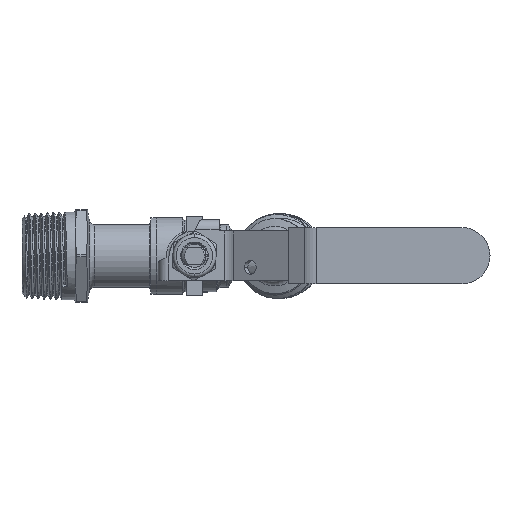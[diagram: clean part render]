
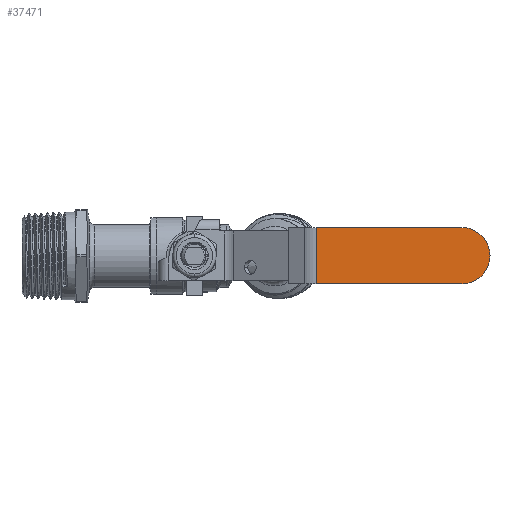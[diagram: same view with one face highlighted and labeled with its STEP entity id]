
A CAD part, top view. The second image highlights one B-rep face of the part: STEP entity #37471.
In plain terms, the highlighted planar face has unit normal (0, 0, 1).
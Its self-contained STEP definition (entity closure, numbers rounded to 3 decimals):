
#36955 = PLANE('',#36956);
#36956 = AXIS2_PLACEMENT_3D('',#36957,#36958,#36959);
#36957 = CARTESIAN_POINT('',(36.668,7.931,
    52.98));
#36958 = DIRECTION('',(0.,-1.,0.));
#36959 = DIRECTION('',(0.,0.,-1.));
#36984 = CYLINDRICAL_SURFACE('',#36985,8.5);
#36985 = AXIS2_PLACEMENT_3D('',#36986,#36987,#36988);
#36986 = CARTESIAN_POINT('',(80.604,-0.569,
    56.38));
#36987 = DIRECTION('',(0.,0.,-1.));
#36988 = DIRECTION('',(-1.,-0.,0.));
#37013 = CYLINDRICAL_SURFACE('',#37014,8.5);
#37014 = AXIS2_PLACEMENT_3D('',#37015,#37016,#37017);
#37015 = CARTESIAN_POINT('',(80.604,-0.569,
    52.98));
#37016 = DIRECTION('',(0.,0.,1.));
#37017 = DIRECTION('',(1.,0.,-0.));
#37041 = PLANE('',#37042);
#37042 = AXIS2_PLACEMENT_3D('',#37043,#37044,#37045);
#37043 = CARTESIAN_POINT('',(36.668,-9.069,
    52.98));
#37044 = DIRECTION('',(0.,-1.,0.));
#37045 = DIRECTION('',(0.,0.,-1.));
#37361 = CYLINDRICAL_SURFACE('',#37362,6.6);
#37362 = AXIS2_PLACEMENT_3D('',#37363,#37364,#37365);
#37363 = CARTESIAN_POINT('',(36.668,7.931,
    52.98));
#37364 = DIRECTION('',(0.,-1.,0.));
#37365 = DIRECTION('',(0.,0.,-1.));
#37399 = VERTEX_POINT('',#37400);
#37400 = CARTESIAN_POINT('',(36.668,-9.069,
    59.58));
#37422 = EDGE_CURVE('',#37423,#37399,#37425,.T.);
#37423 = VERTEX_POINT('',#37424);
#37424 = CARTESIAN_POINT('',(36.668,7.931,
    59.58));
#37425 = SURFACE_CURVE('',#37426,(#37430,#37437),.PCURVE_S1.);
#37426 = LINE('',#37427,#37428);
#37427 = CARTESIAN_POINT('',(36.668,7.931,
    59.58));
#37428 = VECTOR('',#37429,1.);
#37429 = DIRECTION('',(0.,-1.,0.));
#37430 = PCURVE('',#37361,#37431);
#37431 = DEFINITIONAL_REPRESENTATION('',(#37432),#37436);
#37432 = LINE('',#37433,#37434);
#37433 = CARTESIAN_POINT('',(3.142,0.));
#37434 = VECTOR('',#37435,1.);
#37435 = DIRECTION('',(0.,1.));
#37436 = ( GEOMETRIC_REPRESENTATION_CONTEXT(2) 
PARAMETRIC_REPRESENTATION_CONTEXT() REPRESENTATION_CONTEXT('2D SPACE',''
  ) );
#37437 = PCURVE('',#37438,#37443);
#37438 = PLANE('',#37439);
#37439 = AXIS2_PLACEMENT_3D('',#37440,#37441,#37442);
#37440 = CARTESIAN_POINT('',(89.104,7.931,
    59.58));
#37441 = DIRECTION('',(0.,0.,1.));
#37442 = DIRECTION('',(1.,0.,-0.));
#37443 = DEFINITIONAL_REPRESENTATION('',(#37444),#37448);
#37444 = LINE('',#37445,#37446);
#37445 = CARTESIAN_POINT('',(-52.436,0.));
#37446 = VECTOR('',#37447,1.);
#37447 = DIRECTION('',(0.,-1.));
#37448 = ( GEOMETRIC_REPRESENTATION_CONTEXT(2) 
PARAMETRIC_REPRESENTATION_CONTEXT() REPRESENTATION_CONTEXT('2D SPACE',''
  ) );
#37471 = ADVANCED_FACE('',(#37472),#37438,.T.);
#37472 = FACE_BOUND('',#37473,.T.);
#37473 = EDGE_LOOP('',(#37474,#37500,#37524,#37545,#37546));
#37474 = ORIENTED_EDGE('',*,*,#37475,.T.);
#37475 = EDGE_CURVE('',#37476,#37478,#37480,.T.);
#37476 = VERTEX_POINT('',#37477);
#37477 = CARTESIAN_POINT('',(80.604,-9.069,
    59.58));
#37478 = VERTEX_POINT('',#37479);
#37479 = CARTESIAN_POINT('',(89.104,-0.569,
    59.58));
#37480 = SURFACE_CURVE('',#37481,(#37486,#37493),.PCURVE_S1.);
#37481 = CIRCLE('',#37482,8.5);
#37482 = AXIS2_PLACEMENT_3D('',#37483,#37484,#37485);
#37483 = CARTESIAN_POINT('',(80.604,-0.569,
    59.58));
#37484 = DIRECTION('',(0.,0.,1.));
#37485 = DIRECTION('',(1.,0.,-0.));
#37486 = PCURVE('',#37438,#37487);
#37487 = DEFINITIONAL_REPRESENTATION('',(#37488),#37492);
#37488 = CIRCLE('',#37489,8.5);
#37489 = AXIS2_PLACEMENT_2D('',#37490,#37491);
#37490 = CARTESIAN_POINT('',(-8.5,-8.5));
#37491 = DIRECTION('',(1.,0.));
#37492 = ( GEOMETRIC_REPRESENTATION_CONTEXT(2) 
PARAMETRIC_REPRESENTATION_CONTEXT() REPRESENTATION_CONTEXT('2D SPACE',''
  ) );
#37493 = PCURVE('',#37013,#37494);
#37494 = DEFINITIONAL_REPRESENTATION('',(#37495),#37499);
#37495 = LINE('',#37496,#37497);
#37496 = CARTESIAN_POINT('',(0.,6.6));
#37497 = VECTOR('',#37498,1.);
#37498 = DIRECTION('',(1.,0.));
#37499 = ( GEOMETRIC_REPRESENTATION_CONTEXT(2) 
PARAMETRIC_REPRESENTATION_CONTEXT() REPRESENTATION_CONTEXT('2D SPACE',''
  ) );
#37500 = ORIENTED_EDGE('',*,*,#37501,.T.);
#37501 = EDGE_CURVE('',#37478,#37502,#37504,.T.);
#37502 = VERTEX_POINT('',#37503);
#37503 = CARTESIAN_POINT('',(80.604,7.931,
    59.58));
#37504 = SURFACE_CURVE('',#37505,(#37510,#37517),.PCURVE_S1.);
#37505 = CIRCLE('',#37506,8.5);
#37506 = AXIS2_PLACEMENT_3D('',#37507,#37508,#37509);
#37507 = CARTESIAN_POINT('',(80.604,-0.569,
    59.58));
#37508 = DIRECTION('',(0.,0.,1.));
#37509 = DIRECTION('',(1.,0.,-0.));
#37510 = PCURVE('',#37438,#37511);
#37511 = DEFINITIONAL_REPRESENTATION('',(#37512),#37516);
#37512 = CIRCLE('',#37513,8.5);
#37513 = AXIS2_PLACEMENT_2D('',#37514,#37515);
#37514 = CARTESIAN_POINT('',(-8.5,-8.5));
#37515 = DIRECTION('',(1.,0.));
#37516 = ( GEOMETRIC_REPRESENTATION_CONTEXT(2) 
PARAMETRIC_REPRESENTATION_CONTEXT() REPRESENTATION_CONTEXT('2D SPACE',''
  ) );
#37517 = PCURVE('',#36984,#37518);
#37518 = DEFINITIONAL_REPRESENTATION('',(#37519),#37523);
#37519 = LINE('',#37520,#37521);
#37520 = CARTESIAN_POINT('',(3.142,-3.2));
#37521 = VECTOR('',#37522,1.);
#37522 = DIRECTION('',(-1.,0.));
#37523 = ( GEOMETRIC_REPRESENTATION_CONTEXT(2) 
PARAMETRIC_REPRESENTATION_CONTEXT() REPRESENTATION_CONTEXT('2D SPACE',''
  ) );
#37524 = ORIENTED_EDGE('',*,*,#37525,.T.);
#37525 = EDGE_CURVE('',#37502,#37423,#37526,.T.);
#37526 = SURFACE_CURVE('',#37527,(#37531,#37538),.PCURVE_S1.);
#37527 = LINE('',#37528,#37529);
#37528 = CARTESIAN_POINT('',(89.104,7.931,
    59.58));
#37529 = VECTOR('',#37530,1.);
#37530 = DIRECTION('',(-1.,0.,0.));
#37531 = PCURVE('',#37438,#37532);
#37532 = DEFINITIONAL_REPRESENTATION('',(#37533),#37537);
#37533 = LINE('',#37534,#37535);
#37534 = CARTESIAN_POINT('',(0.,0.));
#37535 = VECTOR('',#37536,1.);
#37536 = DIRECTION('',(-1.,0.));
#37537 = ( GEOMETRIC_REPRESENTATION_CONTEXT(2) 
PARAMETRIC_REPRESENTATION_CONTEXT() REPRESENTATION_CONTEXT('2D SPACE',''
  ) );
#37538 = PCURVE('',#36955,#37539);
#37539 = DEFINITIONAL_REPRESENTATION('',(#37540),#37544);
#37540 = LINE('',#37541,#37542);
#37541 = CARTESIAN_POINT('',(-6.6,52.436));
#37542 = VECTOR('',#37543,1.);
#37543 = DIRECTION('',(-0.,-1.));
#37544 = ( GEOMETRIC_REPRESENTATION_CONTEXT(2) 
PARAMETRIC_REPRESENTATION_CONTEXT() REPRESENTATION_CONTEXT('2D SPACE',''
  ) );
#37545 = ORIENTED_EDGE('',*,*,#37422,.T.);
#37546 = ORIENTED_EDGE('',*,*,#37547,.F.);
#37547 = EDGE_CURVE('',#37476,#37399,#37548,.T.);
#37548 = SURFACE_CURVE('',#37549,(#37553,#37560),.PCURVE_S1.);
#37549 = LINE('',#37550,#37551);
#37550 = CARTESIAN_POINT('',(89.104,-9.069,
    59.58));
#37551 = VECTOR('',#37552,1.);
#37552 = DIRECTION('',(-1.,0.,0.));
#37553 = PCURVE('',#37438,#37554);
#37554 = DEFINITIONAL_REPRESENTATION('',(#37555),#37559);
#37555 = LINE('',#37556,#37557);
#37556 = CARTESIAN_POINT('',(0.,-17.));
#37557 = VECTOR('',#37558,1.);
#37558 = DIRECTION('',(-1.,0.));
#37559 = ( GEOMETRIC_REPRESENTATION_CONTEXT(2) 
PARAMETRIC_REPRESENTATION_CONTEXT() REPRESENTATION_CONTEXT('2D SPACE',''
  ) );
#37560 = PCURVE('',#37041,#37561);
#37561 = DEFINITIONAL_REPRESENTATION('',(#37562),#37566);
#37562 = LINE('',#37563,#37564);
#37563 = CARTESIAN_POINT('',(-6.6,52.436));
#37564 = VECTOR('',#37565,1.);
#37565 = DIRECTION('',(-0.,-1.));
#37566 = ( GEOMETRIC_REPRESENTATION_CONTEXT(2) 
PARAMETRIC_REPRESENTATION_CONTEXT() REPRESENTATION_CONTEXT('2D SPACE',''
  ) );
